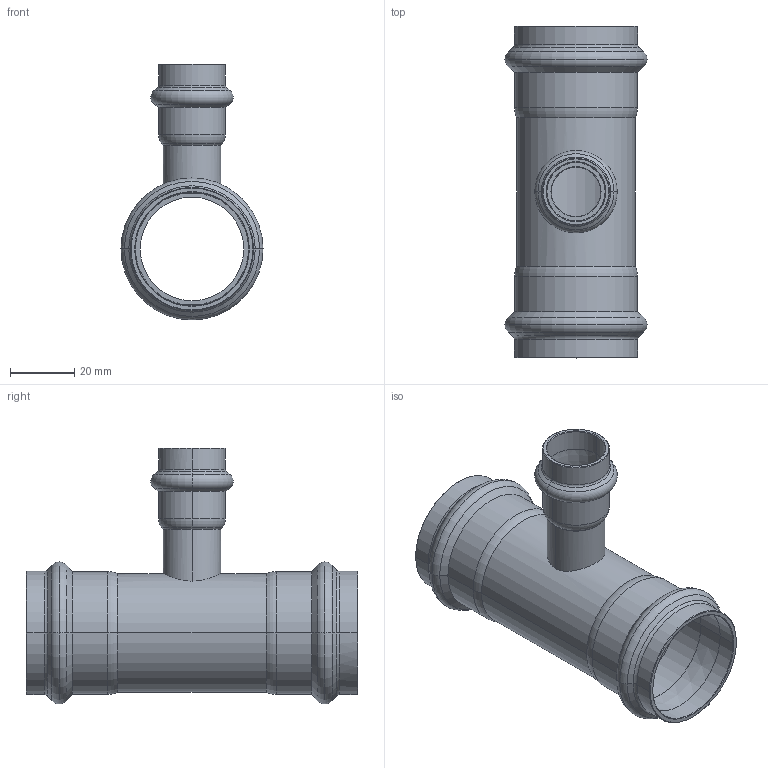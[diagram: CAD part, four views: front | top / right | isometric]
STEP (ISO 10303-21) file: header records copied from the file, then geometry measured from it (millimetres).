
FILE_DESCRIPTION(('CoCreate Modeling STEP Export'),'2;1');
FILE_NAME('8130RVW351835.stp','2013-01-31T14:41:23',(''),(''),'CoCreate Modeling STEP processor for AP214 (Solid Model)','CoCreate Modeling 17.00A 17-Jun-2010 (C) Parametric Technology GmbH','');
FILE_SCHEMA(('AUTOMOTIVE_DESIGN { 1 0 10303 214 1 1 1 1 }'));
Length unit declared in the file: millimetre
Products named in the file (2): 8130RVW351835
Assembly tree (1 placements, depth 2):
  8130RVW351835
    8130RVW351835
Bounding box: 44.3 x 103.51 x 79.84 mm (x, y, z)
Volume: 25485.5 mm3; surface area: 29998.4 mm2
Topology: 1 solids, 1 shells, 128 faces, 272 edges, 154 vertices
Faces by surface type: cylinder 40, torus 40, cone 36, plane 10, bspline 2
Entity records: 4806 total; most frequent: CARTESIAN_POINT 2447, ORIENTED_EDGE 544, DIRECTION 428, EDGE_CURVE 272, AXIS2_PLACEMENT_3D 176, VERTEX_POINT 154, EDGE_LOOP 140, FACE_OUTER_BOUND 128
